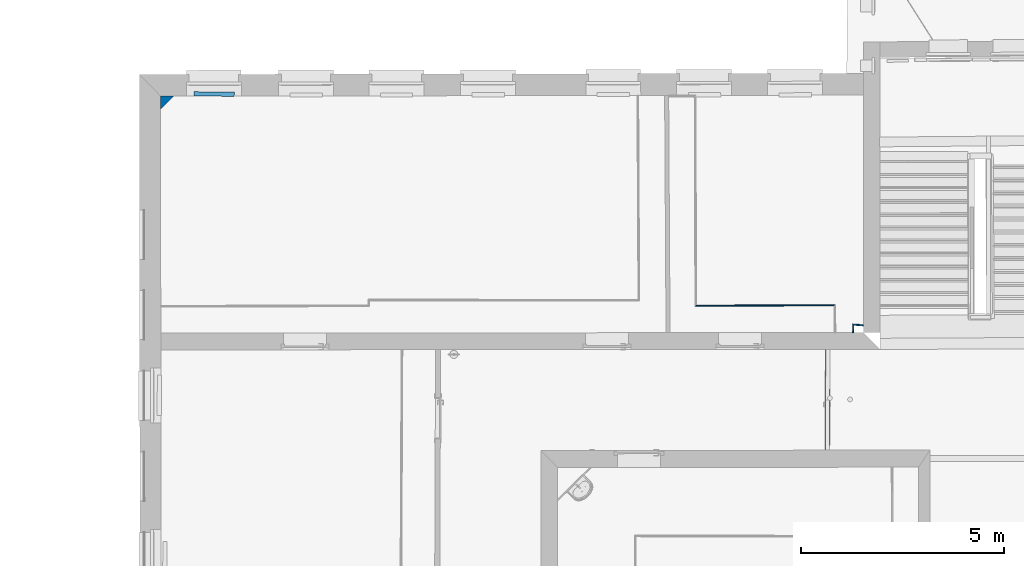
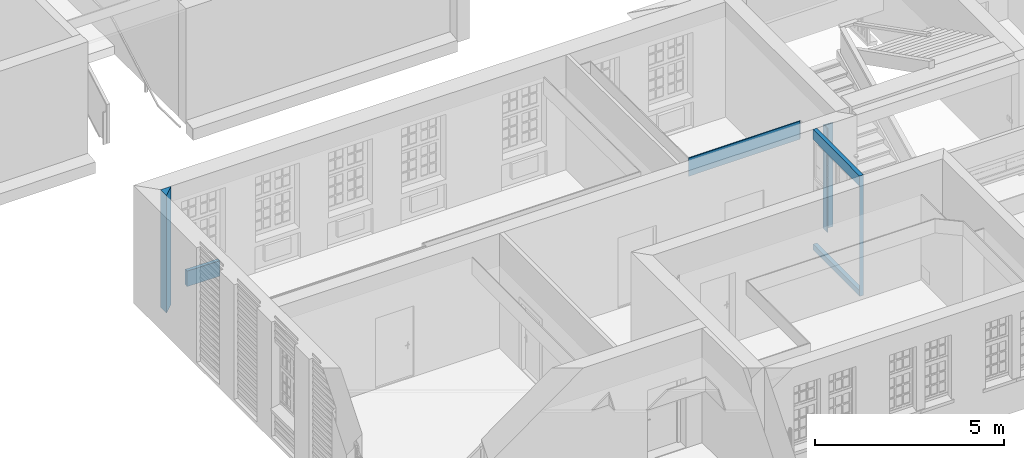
# One storey, part 22 of 158: 6 walls, 3 openings.
"""IFC2X3 building model written with IfcOpenShell, lengths in metres."""

from ifc_helpers import new_model, entity, si_unit, converted_unit, derived_unit, money_unit, direction, frame, origin_with_axes, origin_2d_with_axis, place, context, subcontext, project, spatial, polyline, rectangle, outline, extrude, material, layer, layer_set, layer_usage, type_object, element, save


model = new_model("IFC2X3")

# Units and contexts
model_context = context("Model", 3, precision=1e-05, world=origin_with_axes(), true_north=direction((0.0, 1.0)))
body_context = subcontext(model_context, "Body", "Model", "MODEL_VIEW")
ifc_project = project(units=[si_unit("LENGTHUNIT", "METRE"), si_unit("AREAUNIT", "SQUARE_METRE"), si_unit("VOLUMEUNIT", "CUBIC_METRE"), converted_unit("PLANEANGLEUNIT", "DEGREE", entity("IfcPlaneAngleMeasure", 0.0174532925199), si_unit("PLANEANGLEUNIT", "RADIAN"), dimensions=[0, 0, 0, 0, 0, 0, 0]), money_unit("EUR"), converted_unit("TIMEUNIT", "Year", entity("IfcTimeMeasure", 31556926.0), si_unit("TIMEUNIT", "SECOND"), dimensions=[0, 0, 1, 0, 0, 0, 0]), si_unit("MASSUNIT", "GRAM", prefix="KILO"), si_unit("THERMODYNAMICTEMPERATUREUNIT", "DEGREE_CELSIUS"), si_unit("LUMINOUSINTENSITYUNIT", "LUMEN"), si_unit("ENERGYUNIT", "JOULE", prefix="MEGA"), derived_unit("THERMALCONDUCTANCEUNIT", [(si_unit("POWERUNIT", "WATT"), 1), (si_unit("LENGTHUNIT", "METRE"), -1), (si_unit("THERMODYNAMICTEMPERATUREUNIT", "KELVIN"), -1)]), derived_unit("SPECIFICHEATCAPACITYUNIT", [(si_unit("ENERGYUNIT", "JOULE"), 1), (si_unit("MASSUNIT", "GRAM", prefix="KILO"), -1), (si_unit("THERMODYNAMICTEMPERATUREUNIT", "KELVIN"), -1)]), derived_unit("MASSDENSITYUNIT", [(si_unit("MASSUNIT", "GRAM", prefix="KILO"), 1), (si_unit("VOLUMEUNIT", "CUBIC_METRE"), -1)])], contexts=[model_context])

# Site, building, storey
site_placement = place(None, origin_with_axes())
site = spatial("IfcSite", under=ifc_project, at=site_placement, Name="Gelände", CompositionType="ELEMENT")
building_placement = place(site_placement, origin_with_axes())
building = spatial("IfcBuilding", under=site, at=building_placement, Name="Gebäude", CompositionType="ELEMENT")
storey_placement = place(building_placement, origin_with_axes())
storey = spatial("IfcBuildingStorey", under=building, at=storey_placement, Name="ERDGESCHOSS", CompositionType="ELEMENT", Elevation=0.0)

# Wall
ifc_material_1 = material(Name="05_ALLGEMEIN - TRAGENDE BAUTEILE")
ifc_layer_1 = layer(ifc_material_1, 0.23, ventilated="UNKNOWN")
ifc_layer_set_1 = layer_set([ifc_layer_1], Name="05_ALLGEMEIN - TRAGENDE BAUTEILE 0.23")
ifc_layer_usage_1 = layer_usage(ifc_layer_set_1, "AXIS2", "NEGATIVE", 0.0)
wall_type_1 = type_object("IfcWallType", Name="05_ALLGEMEIN - TRAGENDE BAUTEILE 230", PredefinedType="ELEMENTEDWALL")
wall_1_placement = place(storey_placement, frame((-26.6711190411, 26.0302229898, -0.21), z_axis=(0.0, 0.0, 1.0), x_axis=(-0.717803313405, -0.696245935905, 0.0)))
element("IfcWallStandardCase", 1, at=wall_1_placement, inside=storey, type_object=wall_type_1, material=ifc_layer_usage_1, Name="Wand-030", ObjectType="ELEMENTEDWALL", context=body_context, shape_type="SweptSolid", body=[
    extrude(outline(polyline([(1.22151820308, 8.14777356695e-10), (0.769514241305, 8.14777356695e-10), (1.00293165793, -0.22577612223), (1.22151820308, 8.14777356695e-10)])), origin_with_axes(), (0.0, 0.0, 1.0), 3.81),
])

# Wall, openings
ifc_layer_2 = layer(ifc_material_1, 0.12, ventilated="UNKNOWN")
ifc_layer_set_2 = layer_set([ifc_layer_2], Name="05_ALLGEMEIN - TRAGENDE BAUTEILE 0.12")
ifc_layer_usage_2 = layer_usage(ifc_layer_set_2, "AXIS2", "NEGATIVE", 0.12)
wall_type_2 = type_object("IfcWallType", Name="05_ALLGEMEIN - TRAGENDE BAUTEILE 120", PredefinedType="ELEMENTEDWALL")
wall_2_placement = place(storey_placement, frame((-11.0809286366, 16.7812376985, -0.295), z_axis=(0.0, 0.0, 1.0), x_axis=(0.00503369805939, 0.999987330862, 0.0)))
wall_2 = element("IfcWallStandardCase", 2, at=wall_2_placement, inside=storey, type_object=wall_type_2, material=ifc_layer_usage_2, Name="Wand-036", ObjectType="ELEMENTEDWALL", context=body_context, shape_type="SweptSolid", body=[
    extrude(outline(polyline([(0.0, 0.0), (2.47919622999, 0.0), (2.4785181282, 0.12), (-0.000781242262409, 0.12), (0.0, 0.0)])), origin_with_axes(), (0.0, 0.0, 1.0), 3.895),
])
opening_1_placement = place(wall_2_placement, frame((1.85939717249, 0.0, 2.30983866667), z_axis=(0.0, 0.0, 1.0), x_axis=(1.0, 0.0, 0.0)))
element("IfcOpeningElement", 3, at=opening_1_placement, cuts=wall_2, Name="Fenster-016", context=body_context, shape_type="SweptSolid", body=[
    extrude(rectangle(XDim=1.23959811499, YDim=1.25641788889, at=origin_2d_with_axis()), frame((0.0, 0.007, 0.628208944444), z_axis=(0.0, 1.0, 0.0), x_axis=(-1.0, 0.0, 0.0)), (0.0, 0.0, 1.0), 0.233),
    extrude(rectangle(XDim=1.23959811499, YDim=1.25641788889, at=origin_2d_with_axis()), frame((0.0, 0.007, 0.628208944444), z_axis=(0.0, -1.0, 0.0), x_axis=(-1.0, 0.0, 0.0)), (0.0, 0.0, 1.0), 0.127),
])
opening_2_placement = place(wall_2_placement, frame((0.619799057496, 0.0, 2.30983866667), z_axis=(0.0, 0.0, 1.0), x_axis=(1.0, 0.0, 0.0)))
element("IfcOpeningElement", 4, at=opening_2_placement, cuts=wall_2, Name="Fenster-016", context=body_context, shape_type="SweptSolid", body=[
    extrude(rectangle(XDim=1.23959811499, YDim=1.25641788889, at=origin_2d_with_axis()), frame((0.0, 0.007, 0.628208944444), z_axis=(0.0, 1.0, 0.0), x_axis=(-1.0, 0.0, 0.0)), (0.0, 0.0, 1.0), 0.233),
    extrude(rectangle(XDim=1.23959811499, YDim=1.25641788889, at=origin_2d_with_axis()), frame((0.0, 0.007, 0.628208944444), z_axis=(0.0, -1.0, 0.0), x_axis=(-1.0, 0.0, 0.0)), (0.0, 0.0, 1.0), 0.127),
])
opening_3_placement = place(wall_2_placement, frame((1.23959811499, 0.0, 0.186866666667), z_axis=(0.0, 0.0, 1.0), x_axis=(1.0, 0.0, 0.0)))
element("IfcOpeningElement", 5, at=opening_3_placement, cuts=wall_2, Name="Tür-023", context=body_context, shape_type="SweptSolid", body=[
    extrude(rectangle(XDim=2.47919622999, YDim=2.122972, at=origin_2d_with_axis()), frame((0.0, 0.106776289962, 1.061486), z_axis=(0.0, -1.0, 0.0), x_axis=(-1.0, 0.0, 0.0)), (0.0, 0.0, 1.0), 0.226776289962),
    extrude(rectangle(XDim=2.47919622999, YDim=2.122972, at=origin_2d_with_axis()), frame((0.0, 0.106776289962, 1.061486), z_axis=(0.0, 1.0, 0.0), x_axis=(-1.0, 0.0, 0.0)), (0.0, 0.0, 1.0), 0.133223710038),
])

# Walls
ifc_material_2 = material(Name="43_Gipskarton")
ifc_layer_3 = layer(ifc_material_2, 0.03, ventilated="UNKNOWN")
ifc_layer_set_3 = layer_set([ifc_layer_3], Name="43_Gipskarton 0.03")
ifc_layer_usage_3 = layer_usage(ifc_layer_set_3, "AXIS2", "NEGATIVE", 0.0)
wall_type_3 = type_object("IfcWallType", Name="43_Gipskarton 30", PredefinedType="ELEMENTEDWALL")
wall_3_placement = place(storey_placement, frame((-10.5174597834, 19.8877015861, -0.22), z_axis=(0.0, 0.0, 1.0), x_axis=(0.996889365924, -0.0788136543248, 0.0)))
element("IfcWallStandardCase", 6, at=wall_3_placement, inside=storey, type_object=wall_type_3, material=ifc_layer_usage_3, Name="Wand-039", ObjectType="ELEMENTEDWALL", context=body_context, shape_type="SweptSolid", body=[
    extrude(outline(polyline([(0.0319447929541, -0.03), (0.269126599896, -0.03), (0.266751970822, 0.0), (0.0, 0.0), (0.0319447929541, -0.03)])), origin_with_axes(), (0.0, 0.0, 1.0), 3.36),
])
ifc_layer_usage_4 = layer_usage(ifc_layer_set_3, "AXIS2", "NEGATIVE", 0.0)
wall_4_placement = place(storey_placement, frame((-14.3635216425, 20.3502149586, 2.555), z_axis=(0.0, 0.0, 1.0), x_axis=(0.999990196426, 0.00442798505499, 0.0)))
element("IfcWallStandardCase", 7, at=wall_4_placement, inside=storey, type_object=wall_type_3, material=ifc_layer_usage_4, Name="Wand-039", ObjectType="ELEMENTEDWALL", context=body_context, shape_type="SweptSolid", body=[
    extrude(outline(polyline([(-0.0300434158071, -0.03), (3.39357904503, -0.03), (3.4236426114, 0.0), (0.0, 0.0), (-0.0300434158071, -0.03)])), origin_with_axes(), (0.0, 0.0, 1.0), 0.585),
])
ifc_layer_usage_5 = layer_usage(ifc_layer_set_3, "AXIS2", "NEGATIVE", 0.0)
wall_5_placement = place(storey_placement, frame((-10.5275704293, 19.2607362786, -0.22), z_axis=(0.0, 0.0, 1.0), x_axis=(0.0161242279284, 0.999869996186, 0.0)))
element("IfcWallStandardCase", 8, at=wall_5_placement, inside=storey, type_object=wall_type_3, material=ifc_layer_usage_5, Name="Wand-040", ObjectType="ELEMENTEDWALL", context=body_context, shape_type="SweptSolid", body=[
    extrude(outline(polyline([(0.415175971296, -0.03), (0.595102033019, -0.03), (0.627046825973, 0.0), (0.4146736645, 0.0), (0.415175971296, -0.03)])), origin_with_axes(), (0.0, 0.0, 1.0), 3.36),
])
ifc_material_3 = material(Name="01_ALLGEMEIN - BAUTEIL")
ifc_layer_4 = layer(ifc_material_3, 0.105, ventilated="UNKNOWN")
ifc_layer_set_4 = layer_set([ifc_layer_4], Name="01_ALLGEMEIN - BAUTEIL 0.105")
ifc_layer_usage_6 = layer_usage(ifc_layer_set_4, "AXIS2", "NEGATIVE", 0.0)
wall_type_4 = type_object("IfcWallType", Name="01_ALLGEMEIN - BAUTEIL 105", PredefinedType="ELEMENTEDWALL")
wall_6_placement = place(storey_placement, frame((-25.7353948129, 25.4883751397, 0.172859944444), z_axis=(0.0, 0.0, 1.0), x_axis=(-0.999948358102, 0.0101627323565, 0.0)))
element("IfcWallStandardCase", 9, at=wall_6_placement, inside=storey, type_object=wall_type_4, material=ifc_layer_usage_6, Name="Wand-041", ObjectType="ELEMENTEDWALL", context=body_context, shape_type="SweptSolid", body=[
    extrude(outline(polyline([(0.0, -0.105), (0.995937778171, -0.105), (0.995937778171, 0.0), (0.0, 0.0), (0.0, -0.105)])), origin_with_axes(), (0.0, 0.0, 1.0), 0.501014),
])

save(model, "model.ifc")
